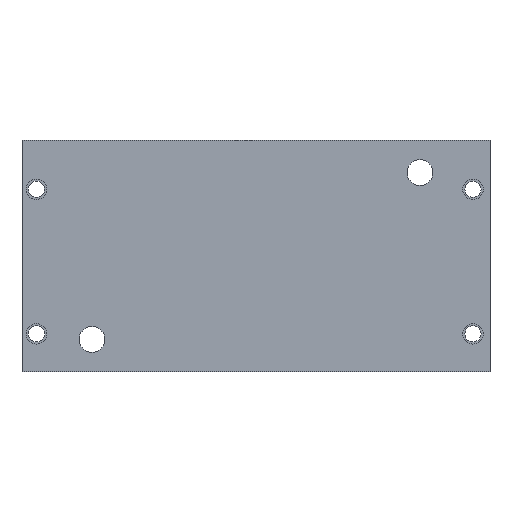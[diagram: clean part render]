
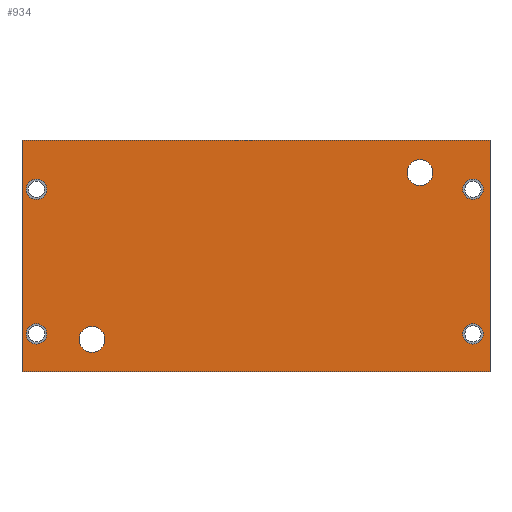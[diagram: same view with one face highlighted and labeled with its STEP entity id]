
A CAD part, front view. The second image highlights one B-rep face of the part: STEP entity #934.
In plain terms, the highlighted planar face has unit normal (0, -1, 0).
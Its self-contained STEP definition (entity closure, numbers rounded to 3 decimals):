
#67 = CIRCLE ( 'NONE', #2116, 1.2 ) ;
#143 = EDGE_LOOP ( 'NONE', ( #575 ) ) ;
#236 = CARTESIAN_POINT ( 'NONE',  ( 20.165, 0., 5.251 ) ) ;
#246 = FACE_BOUND ( 'NONE', #5341, .T. ) ;
#304 = CARTESIAN_POINT ( 'NONE',  ( -21.75, 0., -10.75 ) ) ;
#341 = AXIS2_PLACEMENT_3D ( 'NONE', #5160, #2893, #3408 ) ;
#375 = AXIS2_PLACEMENT_3D ( 'NONE', #1901, #3612, #4622 ) ;
#414 = EDGE_LOOP ( 'NONE', ( #4349, #550, #4893, #3511 ) ) ;
#518 = EDGE_CURVE ( 'NONE', #3332, #3332, #4789, .T. ) ;
#530 = EDGE_CURVE ( 'NONE', #4767, #1998, #3668, .T. ) ;
#550 = ORIENTED_EDGE ( 'NONE', *, *, #1308, .F. ) ;
#575 = ORIENTED_EDGE ( 'NONE', *, *, #3130, .T. ) ;
#592 = FACE_BOUND ( 'NONE', #1909, .T. ) ;
#618 = FACE_BOUND ( 'NONE', #837, .T. ) ;
#651 = CARTESIAN_POINT ( 'NONE',  ( 20.165, 0., 6.201 ) ) ;
#662 = AXIS2_PLACEMENT_3D ( 'NONE', #651, #2010, #3747 ) ;
#715 = FACE_BOUND ( 'NONE', #2522, .T. ) ;
#731 = DIRECTION ( 'NONE',  ( 0., 1., 0. ) ) ;
#837 = EDGE_LOOP ( 'NONE', ( #1956 ) ) ;
#852 = EDGE_CURVE ( 'NONE', #3312, #4767, #2687, .T. ) ;
#872 = EDGE_CURVE ( 'NONE', #5149, #5149, #1022, .T. ) ;
#934 = ADVANCED_FACE ( 'NONE', ( #592, #715, #246, #618, #3374, #1542, #2488 ), #4614, .T. ) ;
#995 = VECTOR ( 'NONE', #2466, 1000. ) ;
#1022 = CIRCLE ( 'NONE', #662, 0.95 ) ;
#1037 = DIRECTION ( 'NONE',  ( 0., 0., -1. ) ) ;
#1132 = CARTESIAN_POINT ( 'NONE',  ( -20.403, 0., 5.251 ) ) ;
#1142 = DIRECTION ( 'NONE',  ( 0., 1., 0. ) ) ;
#1159 = VECTOR ( 'NONE', #3507, 1000. ) ;
#1308 = EDGE_CURVE ( 'NONE', #5513, #3312, #5664, .T. ) ;
#1404 = ORIENTED_EDGE ( 'NONE', *, *, #872, .T. ) ;
#1430 = CARTESIAN_POINT ( 'NONE',  ( 20.165, 0., -7.242 ) ) ;
#1481 = ORIENTED_EDGE ( 'NONE', *, *, #2266, .T. ) ;
#1542 = FACE_BOUND ( 'NONE', #2918, .T. ) ;
#1569 = CIRCLE ( 'NONE', #4265, 0.95 ) ;
#1630 = CARTESIAN_POINT ( 'NONE',  ( 21.75, 0., -10.75 ) ) ;
#1864 = CARTESIAN_POINT ( 'NONE',  ( 15.25, 0., 7.75 ) ) ;
#1901 = CARTESIAN_POINT ( 'NONE',  ( -20.403, 0., 6.201 ) ) ;
#1909 = EDGE_LOOP ( 'NONE', ( #1404 ) ) ;
#1956 = ORIENTED_EDGE ( 'NONE', *, *, #2922, .T. ) ;
#1998 = VERTEX_POINT ( 'NONE', #2411 ) ;
#2010 = DIRECTION ( 'NONE',  ( 0., 1., 0. ) ) ;
#2031 = CARTESIAN_POINT ( 'NONE',  ( -15.25, 0., -6.55 ) ) ;
#2116 = AXIS2_PLACEMENT_3D ( 'NONE', #3876, #731, #2470 ) ;
#2266 = EDGE_CURVE ( 'NONE', #3395, #3395, #4646, .T. ) ;
#2411 = CARTESIAN_POINT ( 'NONE',  ( 21.75, 0., 10.75 ) ) ;
#2441 = CARTESIAN_POINT ( 'NONE',  ( 15.25, 0., 8.95 ) ) ;
#2466 = DIRECTION ( 'NONE',  ( -1., 0., 0. ) ) ;
#2470 = DIRECTION ( 'NONE',  ( 0., 0., 1. ) ) ;
#2488 = FACE_BOUND ( 'NONE', #143, .T. ) ;
#2522 = EDGE_LOOP ( 'NONE', ( #1481 ) ) ;
#2537 = EDGE_CURVE ( 'NONE', #1998, #5513, #2646, .T. ) ;
#2646 = LINE ( 'NONE', #4812, #1159 ) ;
#2650 = ORIENTED_EDGE ( 'NONE', *, *, #518, .T. ) ;
#2653 = AXIS2_PLACEMENT_3D ( 'NONE', #1864, #3637, #5464 ) ;
#2687 = LINE ( 'NONE', #4499, #3547 ) ;
#2878 = ORIENTED_EDGE ( 'NONE', *, *, #3172, .T. ) ;
#2893 = DIRECTION ( 'NONE',  ( 0., -1., 0. ) ) ;
#2918 = EDGE_LOOP ( 'NONE', ( #2650 ) ) ;
#2922 = EDGE_CURVE ( 'NONE', #3308, #3308, #3036, .T. ) ;
#2934 = CARTESIAN_POINT ( 'NONE',  ( 21.75, 0., 10.75 ) ) ;
#3036 = CIRCLE ( 'NONE', #2653, 1.2 ) ;
#3130 = EDGE_CURVE ( 'NONE', #5217, #5217, #1569, .T. ) ;
#3142 = AXIS2_PLACEMENT_3D ( 'NONE', #4169, #1142, #4282 ) ;
#3171 = DIRECTION ( 'NONE',  ( 0., 0., 1. ) ) ;
#3172 = EDGE_CURVE ( 'NONE', #4238, #4238, #67, .T. ) ;
#3308 = VERTEX_POINT ( 'NONE', #2441 ) ;
#3312 = VERTEX_POINT ( 'NONE', #304 ) ;
#3332 = VERTEX_POINT ( 'NONE', #1132 ) ;
#3374 = FACE_OUTER_BOUND ( 'NONE', #414, .T. ) ;
#3394 = CARTESIAN_POINT ( 'NONE',  ( 21.75, 0., -10.75 ) ) ;
#3395 = VERTEX_POINT ( 'NONE', #3767 ) ;
#3408 = DIRECTION ( 'NONE',  ( 0., 0., -1. ) ) ;
#3507 = DIRECTION ( 'NONE',  ( 0., 0., -1. ) ) ;
#3511 = ORIENTED_EDGE ( 'NONE', *, *, #530, .F. ) ;
#3547 = VECTOR ( 'NONE', #3171, 1000. ) ;
#3612 = DIRECTION ( 'NONE',  ( 0., 1., 0. ) ) ;
#3637 = DIRECTION ( 'NONE',  ( 0., 1., 0. ) ) ;
#3668 = LINE ( 'NONE', #2934, #4408 ) ;
#3747 = DIRECTION ( 'NONE',  ( 0., 0., -1. ) ) ;
#3767 = CARTESIAN_POINT ( 'NONE',  ( -20.403, 0., -8.192 ) ) ;
#3876 = CARTESIAN_POINT ( 'NONE',  ( -15.25, 0., -7.75 ) ) ;
#4169 = CARTESIAN_POINT ( 'NONE',  ( -20.403, 0., -7.242 ) ) ;
#4238 = VERTEX_POINT ( 'NONE', #2031 ) ;
#4265 = AXIS2_PLACEMENT_3D ( 'NONE', #1430, #5078, #1037 ) ;
#4282 = DIRECTION ( 'NONE',  ( 0., 0., -1. ) ) ;
#4349 = ORIENTED_EDGE ( 'NONE', *, *, #852, .F. ) ;
#4408 = VECTOR ( 'NONE', #4684, 1000. ) ;
#4499 = CARTESIAN_POINT ( 'NONE',  ( -21.75, 0., -10.75 ) ) ;
#4614 = PLANE ( 'NONE',  #341 ) ;
#4622 = DIRECTION ( 'NONE',  ( 0., 0., -1. ) ) ;
#4646 = CIRCLE ( 'NONE', #3142, 0.95 ) ;
#4684 = DIRECTION ( 'NONE',  ( 1., 0., 0. ) ) ;
#4767 = VERTEX_POINT ( 'NONE', #5562 ) ;
#4789 = CIRCLE ( 'NONE', #375, 0.95 ) ;
#4812 = CARTESIAN_POINT ( 'NONE',  ( 21.75, 0., -10.75 ) ) ;
#4893 = ORIENTED_EDGE ( 'NONE', *, *, #2537, .F. ) ;
#5078 = DIRECTION ( 'NONE',  ( 0., 1., 0. ) ) ;
#5149 = VERTEX_POINT ( 'NONE', #236 ) ;
#5160 = CARTESIAN_POINT ( 'NONE',  ( 0., 0., 0. ) ) ;
#5217 = VERTEX_POINT ( 'NONE', #5627 ) ;
#5341 = EDGE_LOOP ( 'NONE', ( #2878 ) ) ;
#5464 = DIRECTION ( 'NONE',  ( 0., 0., 1. ) ) ;
#5513 = VERTEX_POINT ( 'NONE', #3394 ) ;
#5562 = CARTESIAN_POINT ( 'NONE',  ( -21.75, 0., 10.75 ) ) ;
#5627 = CARTESIAN_POINT ( 'NONE',  ( 20.165, 0., -8.192 ) ) ;
#5664 = LINE ( 'NONE', #1630, #995 ) ;
